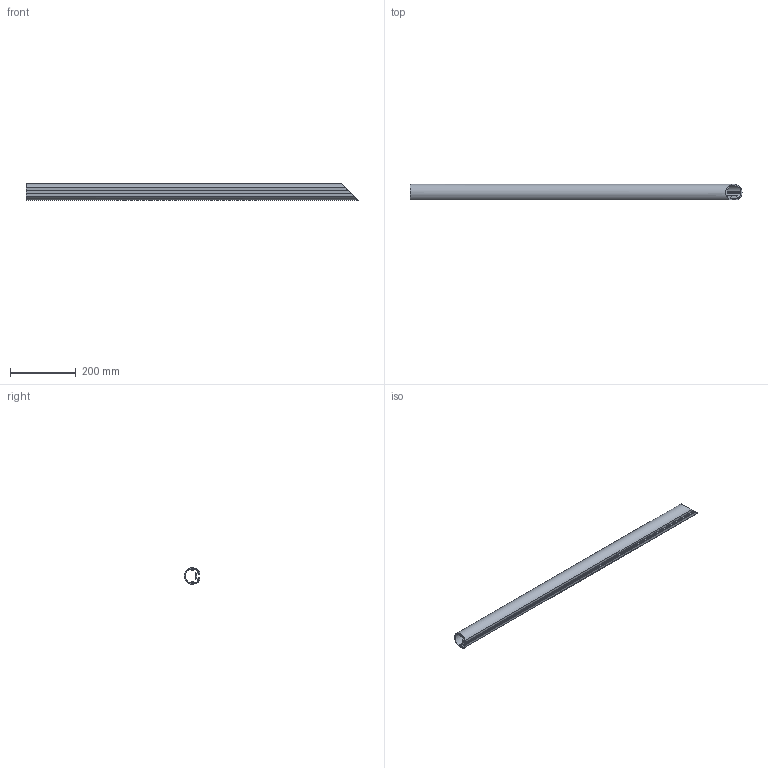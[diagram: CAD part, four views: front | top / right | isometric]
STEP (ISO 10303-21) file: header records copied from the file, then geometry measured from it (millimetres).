
FILE_DESCRIPTION(/* description */ (''),/* implementation_level */ '2;1');
FILE_NAME(/* name */ 'Pos131-HANDREGEL PROFIEL 50X47-Aluminium-1st',/* time_stamp */ '2024-08-06T11:49:45+02:00',/* author */ (''),/* organization */ (''),/* preprocessor_version */ 'ST-DEVELOPER v16.5',/* originating_system */ 'HiCAD 2024 2901.2 Build 361',/* authorisation */ '');
FILE_SCHEMA (('AUTOMOTIVE_DESIGN { 1 0 10303 214 1 1 1 1 }'));
Length unit declared in the file: millimetre
Products named in the file (1): Pos131-HANDREGEL PROFIEL 50X47-Aluminium-1st
Bounding box: 1009.99 x 46.5 x 50 mm (x, y, z)
Volume: 542081.3 mm3; surface area: 367606.2 mm2
Topology: 1 solids, 1 shells, 44 faces, 126 edges, 84 vertices
Faces by surface type: cylinder 30, plane 14
Entity records: 2752 total; most frequent: DIRECTION 274, CARTESIAN_POINT 254, PRESENTATION_STYLE_ASSIGNMENT 253, COLOUR_RGB 253, DRAUGHTING_PRE_DEFINED_CURVE_FONT 252, CURVE_STYLE 252, OVER_RIDING_STYLED_ITEM 252, ORIENTED_EDGE 252
